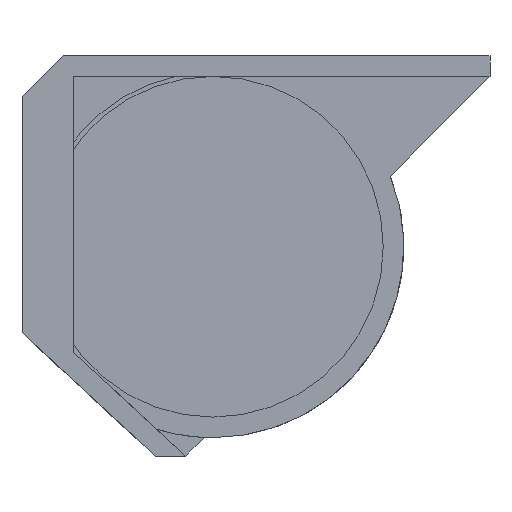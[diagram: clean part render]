
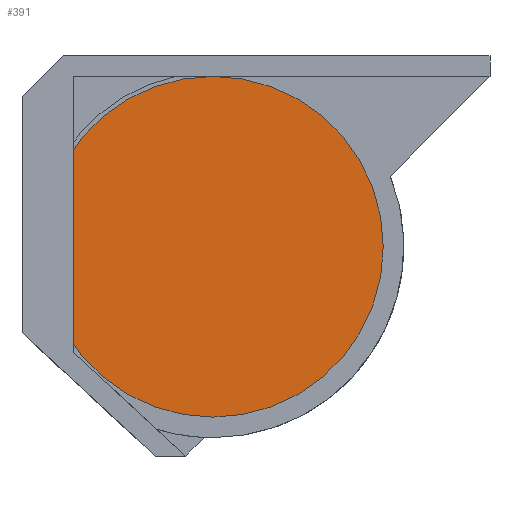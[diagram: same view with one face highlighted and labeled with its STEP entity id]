
A CAD part, left-side view. The second image highlights one B-rep face of the part: STEP entity #391.
In plain terms, the highlighted planar face has unit normal (-1, 0, 0).
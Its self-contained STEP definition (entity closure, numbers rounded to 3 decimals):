
#6 = CIRCLE ( 'NONE', #338, 8.3 ) ;
#39 = ORIENTED_EDGE ( 'NONE', *, *, #692, .T. ) ;
#103 = PLANE ( 'NONE',  #761 ) ;
#128 = ORIENTED_EDGE ( 'NONE', *, *, #951, .T. ) ;
#142 = CIRCLE ( 'NONE', #696, 8.3 ) ;
#249 = FACE_OUTER_BOUND ( 'NONE', #454, .T. ) ;
#312 = VERTEX_POINT ( 'NONE', #402 ) ;
#338 = AXIS2_PLACEMENT_3D ( 'NONE', #519, #347, #836 ) ;
#346 = DIRECTION ( 'NONE',  ( -1., 0., 0. ) ) ;
#347 = DIRECTION ( 'NONE',  ( -1., 0., 0. ) ) ;
#391 = ADVANCED_FACE ( 'NONE', ( #249 ), #103, .T. ) ;
#402 = CARTESIAN_POINT ( 'NONE',  ( -1., 2.45, -7.85 ) ) ;
#411 = DIRECTION ( 'NONE',  ( 0., 0., 1. ) ) ;
#431 = CARTESIAN_POINT ( 'NONE',  ( -1., 2.45, 8.75 ) ) ;
#454 = EDGE_LOOP ( 'NONE', ( #39, #128 ) ) ;
#473 = VERTEX_POINT ( 'NONE', #431 ) ;
#519 = CARTESIAN_POINT ( 'NONE',  ( -1., 2.45, 0.45 ) ) ;
#566 = CARTESIAN_POINT ( 'NONE',  ( -1., 2.45, 0.45 ) ) ;
#671 = DIRECTION ( 'NONE',  ( 0., 0., 1. ) ) ;
#692 = EDGE_CURVE ( 'NONE', #312, #473, #6, .T. ) ;
#696 = AXIS2_PLACEMENT_3D ( 'NONE', #566, #894, #411 ) ;
#761 = AXIS2_PLACEMENT_3D ( 'NONE', #830, #346, #671 ) ;
#830 = CARTESIAN_POINT ( 'NONE',  ( -1., 0., 0. ) ) ;
#836 = DIRECTION ( 'NONE',  ( 0., 0., 1. ) ) ;
#894 = DIRECTION ( 'NONE',  ( -1., 0., 0. ) ) ;
#951 = EDGE_CURVE ( 'NONE', #473, #312, #142, .T. ) ;
